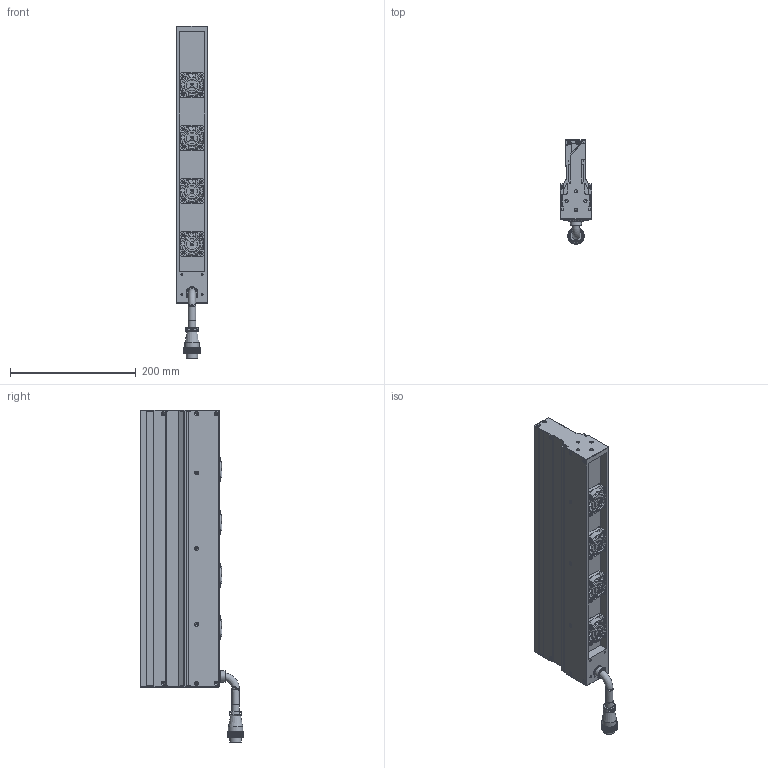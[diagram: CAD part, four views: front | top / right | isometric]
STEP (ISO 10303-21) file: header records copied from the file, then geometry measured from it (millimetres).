
FILE_DESCRIPTION (( 'STEP AP203' ), '1' );
FILE_NAME ('OPT-LSSC440-W-V3.1尨砩芞.STEP', '2025-02-05T06:30:43', ( 'USER' ), ( '' ), 'SwSTEP 2.0', 'SolidWorks 2016', '' );
FILE_SCHEMA (( 'CONFIG_CONTROL_DESIGN' ));
Length unit declared in the file: millimetre
Products named in the file (2): OPT-LSSC440-W-V3.1尨砩芞
Bounding box: 50 x 164.5 x 527.1 mm (x, y, z)
Volume: 1707657.8 mm3; surface area: 322947 mm2
Topology: 21 solids, 29 shells, 2761 faces, 7109 edges, 4512 vertices
Faces by surface type: bspline 1051, cylinder 814, plane 671, torus 160, cone 65
Full cylindrical faces by diameter (mm): 1 x2, 1.6 x16, 2 x4, 2.5 x26, 3 x4, 3.2 x20, 3.4 x24, 3.5 x4, 5 x8, 6.2 x16, 8 x1, 11.6 x1, 11.7 x3, 12 x1, 15 x1, 15.9 x1, 17.5 x1, 18 x1, 18.5 x1, 22.8 x1, 24 x1, 24.8 x4, 38 x4
Entity records: 104061 total; most frequent: CARTESIAN_POINT 49113, ORIENTED_EDGE 13434, DIRECTION 7220, EDGE_CURVE 6717, VERTEX_POINT 4417, B_SPLINE_CURVE_WITH_KNOTS 4079, EDGE_LOOP 3200, FACE_OUTER_BOUND 2983
